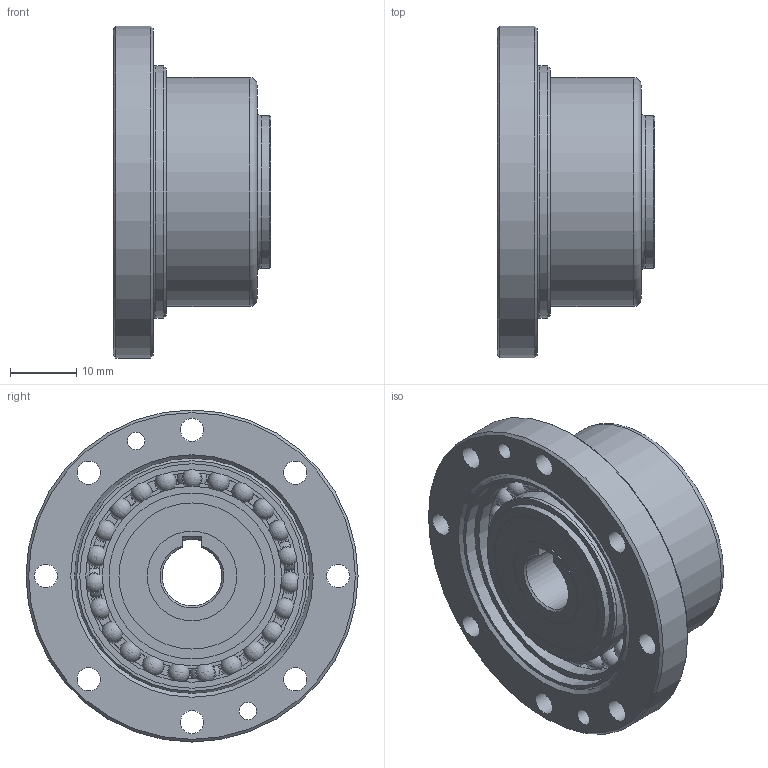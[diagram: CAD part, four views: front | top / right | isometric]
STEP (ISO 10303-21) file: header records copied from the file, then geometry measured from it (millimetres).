
FILE_DESCRIPTION(/* description */ (''),/* implementation_level */ '2;1');
FILE_NAME(/* name */ 'Getriebeset_CTG_35_FK.stp',/* time_stamp */ '2026-03-09T10:48:42+01:00',/* author */ (''),/* organization */ (''),/* preprocessor_version */ 'ST-DEVELOPER v19.4',/* originating_system */ 'SIEMENS PLM Software NX2212.9120',/* authorisation */ '');
FILE_SCHEMA (('AUTOMOTIVE_DESIGN { 1 0 10303 214 3 1 1 1 }'));
Length unit declared in the file: millimetre
Products named in the file (1): Getriebeset_CTG_35_FK
Bounding box: 23.7 x 50 x 50 mm (x, y, z)
Volume: 13416.3 mm3; surface area: 17536.4 mm2
Topology: 30 solids, 30 shells, 248 faces, 689 edges, 464 vertices
Faces by surface type: cylinder 80, plane 75, torus 44, sphere 35, cone 12, bspline 2
Full cylindrical faces by diameter (mm): 2.6 x4, 3.5 x8, 4.5 x6, 11 x1, 13.5 x1, 22 x1, 23 x1, 23.94 x2, 25 x3, 27 x3, 27.01 x1, 30 x1, 32 x2, 33.8 x2, 34.5 x1, 35 x1, 35.5 x1, 38 x1, 50 x1
Entity records: 9570 total; most frequent: CARTESIAN_POINT 3828, DIRECTION 1070, ORIENTED_EDGE 1058, EDGE_CURVE 529, AXIS2_PLACEMENT_3D 492, VERTEX_POINT 408, EDGE_LOOP 342, ADVANCED_FACE 248
